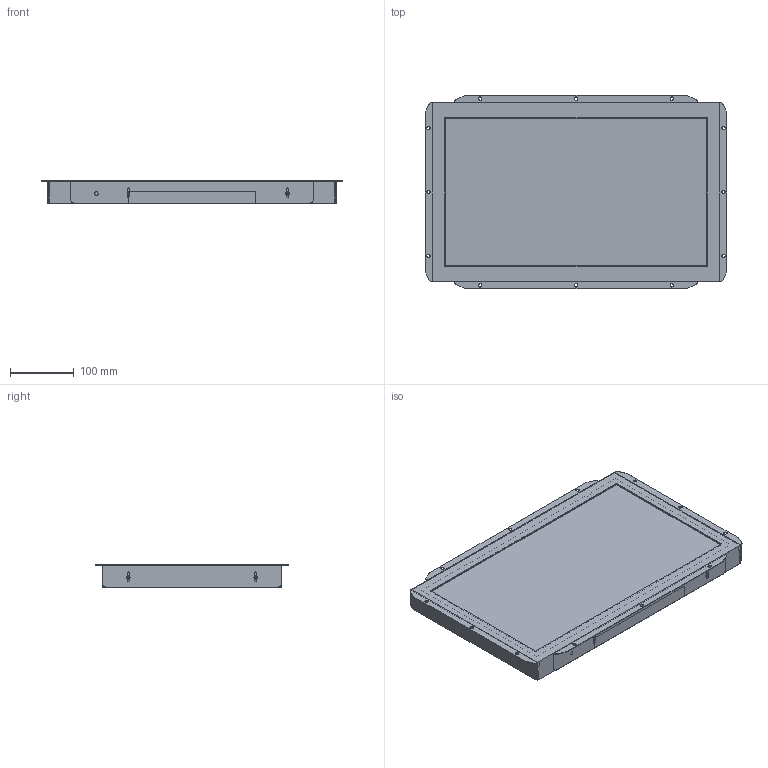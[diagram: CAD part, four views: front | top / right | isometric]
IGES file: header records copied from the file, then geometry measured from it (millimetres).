
Global section: file name: FIE185LM; native system: AutoCAD 2019 – 繁體中文 (Traditional Chinese),62HAutode; preprocessor: sk Translation Framework DWG producer (atf_dwg_producer); organization: unknown; date: 20210622.164638; units: millimetre
Bounding box: 472.9 x 302.9 x 35 mm (x, y, z)
Volume: 1286424.2 mm3; surface area: 1306139.2 mm2
Topology: 13 solids, 14 shells, 1166 faces, 2982 edges, 1985 vertices
Faces by surface type: bspline 1166
